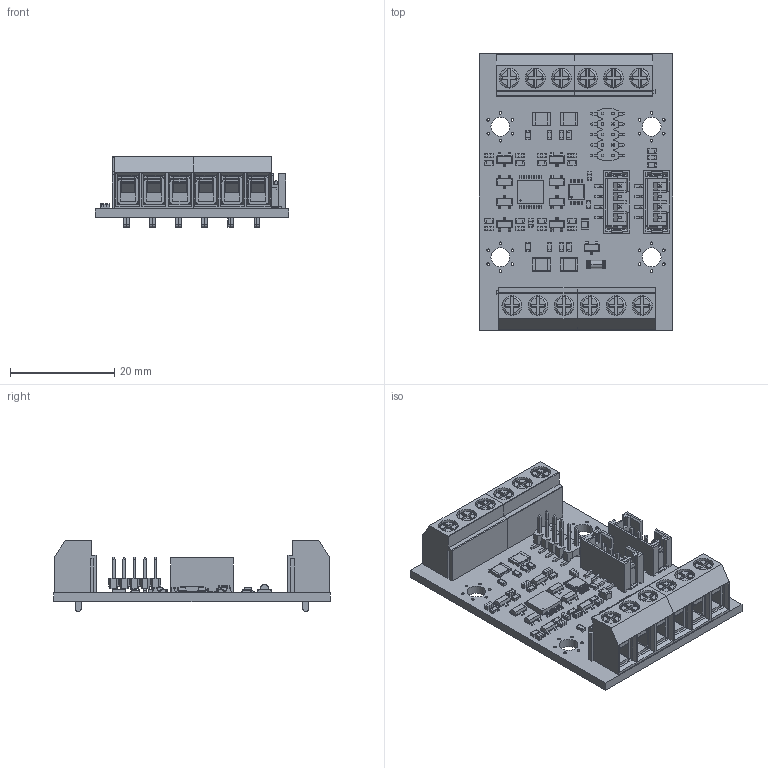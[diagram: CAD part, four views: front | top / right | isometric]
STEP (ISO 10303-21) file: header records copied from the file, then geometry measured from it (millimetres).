
FILE_DESCRIPTION(('Open CASCADE Model'),'2;1');
FILE_NAME('Open CASCADE Shape Model','2023-07-29T16:11:54',('Author'),( 'Open CASCADE'),'Open CASCADE STEP processor 6.8','Open CASCADE 6.8' ,'Unknown');
FILE_SCHEMA(('AUTOMOTIVE_DESIGN { 1 0 10303 214 1 1 1 1 }'));
Length unit declared in the file: millimetre
Products named in the file (71): PCB; Board; D1; FDN306P; R24; MCR03; D9; PMLL4148L; J1; 126104ST; BODY; PIN; NAIL; U2; ADS1115BQDGSRQ1; C7; GRM21B; D8; D7; D6; D5; D4; D3; R23; R22; R20; R19; R18; R17; R15; R14; R10; R9; R7; R6; R5; R4; R2; R13; R12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
Assembly tree (125 placements, depth 4):
  PCB
    Board
    D1
      FDN306P
    R24
      MCR03
    D9
      PMLL4148L
    J1
      126104ST
        BODY
        PIN  x4
        NAIL  x2
    U2
      ADS1115BQDGSRQ1
    C7
      GRM21B
    D8
      FDN306P
    D7
      FDN306P
    D6
      FDN306P
    D5
      FDN306P
    D4
      FDN306P
    D3
      FDN306P
    R23
      MCR03
    R22
      MCR03
    R20
      MCR03
    R19
      MCR03
    R18
      MCR03
    R17
      MCR03
    R15
      MCR03
    R14
      MCR03
    R10
      MCR03
    R9
      MCR03
    R7
      MCR03
    R6
      MCR03
    R5
      MCR03
    R4
      MCR03
    R2
      MCR03
    R13
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Bounding box: 37 x 53 x 13.6 mm (x, y, z)
Volume: 7249.5 mm3; surface area: 13131.9 mm2
Topology: 111 solids, 111 shells, 5582 faces, 14173 edges, 8694 vertices
Faces by surface type: plane 3347, cylinder 1679, torus 340, sphere 168, bspline 48
Full cylindrical faces by diameter (mm): 0.225 x1, 0.5 x24, 1.5 x12, 3.6 x4
Entity records: 52877 total; most frequent: CARTESIAN_POINT 8283, DIRECTION 7688, ORIENTED_EDGE 7506, EDGE_CURVE 3753, LINE 2834, VECTOR 2834, AXIS2_PLACEMENT_3D 2427, VERTEX_POINT 2380
